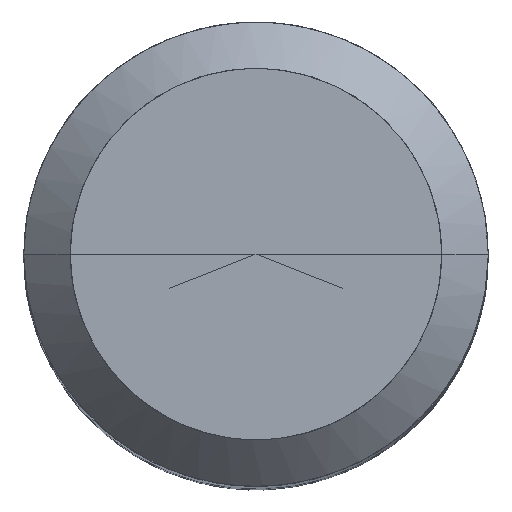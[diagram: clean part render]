
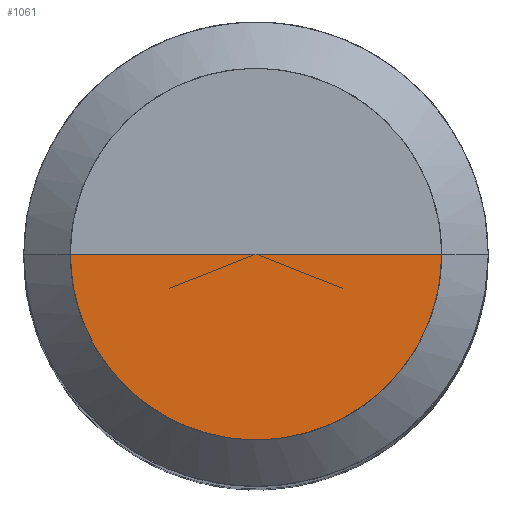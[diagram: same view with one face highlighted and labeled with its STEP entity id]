
A CAD part, top view. The second image highlights one B-rep face of the part: STEP entity #1061.
In plain terms, the highlighted free-form (B-spline) face has degree [1, 2] with [2, 5] control points.
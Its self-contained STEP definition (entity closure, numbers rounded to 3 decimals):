
#793=CARTESIAN_POINT('',(8.0,0.0,60.0));
#797=CARTESIAN_POINT('',(-8.0,0.0,60.0));
#798=CARTESIAN_POINT('',(0.0,0.0,60.0));
#802=CARTESIAN_POINT('',(-8.0,-8.0,60.0));
#803=CARTESIAN_POINT('',(0.0,-8.0,60.0));
#804=CARTESIAN_POINT('',(8.0,-8.0,60.0));
#1046=(
BOUNDED_SURFACE()
B_SPLINE_SURFACE(1,2,(
(#797,#802,#803,#804,#793),
(#798,#798,#798,#798,#798)
), .UNSPECIFIED.,.F.,.F.,.F.)
B_SPLINE_SURFACE_WITH_KNOTS((2,2),(3,2,3),(
0.0,1.0),(
0.0,0.5,1.0), .UNSPECIFIED.)
GEOMETRIC_REPRESENTATION_ITEM()
RATIONAL_B_SPLINE_SURFACE(((1.0,0.707,1.0,0.707,1.0),
(1.0,0.707,1.0,0.707,1.0)
))
REPRESENTATION_ITEM('')
SURFACE()
);
#1047=(
BOUNDED_CURVE()
B_SPLINE_CURVE(2,(#793,#804,#803,#802,#797),.UNSPECIFIED.,.F.,.F.)
B_SPLINE_CURVE_WITH_KNOTS((3,2,3),
(0.0,0.5,1.0),.UNSPECIFIED.)
CURVE()
GEOMETRIC_REPRESENTATION_ITEM()
RATIONAL_B_SPLINE_CURVE((1.0,0.707,1.0,0.707,1.0))
REPRESENTATION_ITEM('')
);
#1048=(
BOUNDED_CURVE()
B_SPLINE_CURVE(1,(#797,#798),.UNSPECIFIED.,.F.,.F.)
B_SPLINE_CURVE_WITH_KNOTS((2,2),
(0.0,1.0),.UNSPECIFIED.)
CURVE()
GEOMETRIC_REPRESENTATION_ITEM()
RATIONAL_B_SPLINE_CURVE((1.0,1.0))
REPRESENTATION_ITEM('')
);
#1049=(
BOUNDED_CURVE()
B_SPLINE_CURVE(1,(#798,#793),.UNSPECIFIED.,.F.,.F.)
B_SPLINE_CURVE_WITH_KNOTS((2,2),
(0.0,1.0),.UNSPECIFIED.)
CURVE()
GEOMETRIC_REPRESENTATION_ITEM()
RATIONAL_B_SPLINE_CURVE((1.0,1.0))
REPRESENTATION_ITEM('')
);
#1050=VERTEX_POINT('',#793);
#1051=VERTEX_POINT('',#797);
#1052=VERTEX_POINT('',#798);
#1053=EDGE_CURVE('',#1050,#1051,#1047,.T.);
#1054=EDGE_CURVE('',#1051,#1052,#1048,.T.);
#1055=EDGE_CURVE('',#1052,#1050,#1049,.T.);
#1056=ORIENTED_EDGE('',*,*,#1053,.T.);
#1057=ORIENTED_EDGE('',*,*,#1054,.T.);
#1058=ORIENTED_EDGE('',*,*,#1055,.T.);
#1059=EDGE_LOOP('',(#1056,#1057,#1058));
#1060=FACE_OUTER_BOUND('',#1059,.T.);
#1061=ADVANCED_FACE('',(#1060),#1046,.T.);
